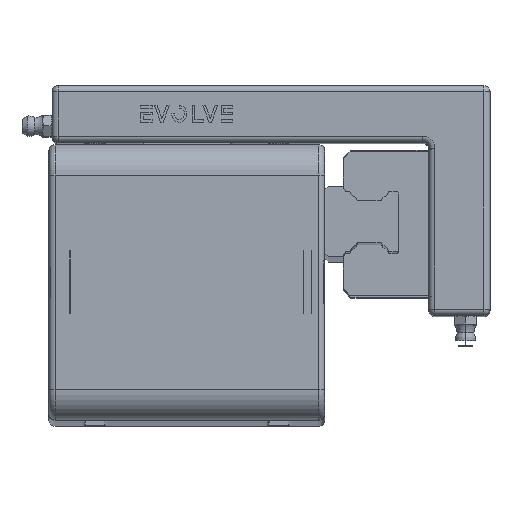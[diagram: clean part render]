
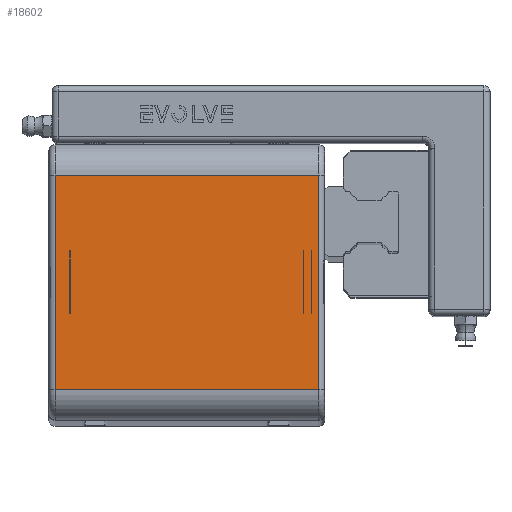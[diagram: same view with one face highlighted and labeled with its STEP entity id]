
A CAD part, top view. The second image highlights one B-rep face of the part: STEP entity #18602.
In plain terms, the highlighted planar face has unit normal (0, 0, 1).
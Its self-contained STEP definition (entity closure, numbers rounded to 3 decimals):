
#1195=PLANE('',#20324);
#2092=FACE_OUTER_BOUND('',#3239,.T.);
#3239=EDGE_LOOP('',(#14553,#14554,#14555,#14556));
#4504=LINE('',#29608,#6145);
#4514=LINE('',#29659,#6155);
#4559=LINE('',#29861,#6200);
#4560=LINE('',#29863,#6201);
#6145=VECTOR('',#23224,10.);
#6155=VECTOR('',#23278,10.);
#6200=VECTOR('',#23517,10.);
#6201=VECTOR('',#23520,10.);
#8765=VERTEX_POINT('',#29600);
#8767=VERTEX_POINT('',#29606);
#8784=VERTEX_POINT('',#29651);
#8786=VERTEX_POINT('',#29657);
#10800=EDGE_CURVE('',#8767,#8765,#4504,.T.);
#10825=EDGE_CURVE('',#8786,#8784,#4514,.T.);
#10922=EDGE_CURVE('',#8765,#8786,#4559,.T.);
#10923=EDGE_CURVE('',#8784,#8767,#4560,.T.);
#14553=ORIENTED_EDGE('',*,*,#10800,.F.);
#14554=ORIENTED_EDGE('',*,*,#10923,.F.);
#14555=ORIENTED_EDGE('',*,*,#10825,.F.);
#14556=ORIENTED_EDGE('',*,*,#10922,.F.);
#18602=ADVANCED_FACE('',(#2092),#1195,.T.);
#20324=AXIS2_PLACEMENT_3D('',#29862,#23518,#23519);
#23224=DIRECTION('',(0.,-1.,0.));
#23278=DIRECTION('',(0.,1.,0.));
#23517=DIRECTION('',(-1.,0.,0.));
#23518=DIRECTION('center_axis',(0.,0.,1.));
#23519=DIRECTION('ref_axis',(1.,0.,0.));
#23520=DIRECTION('',(1.,0.,0.));
#29600=CARTESIAN_POINT('',(43.,-35.,95.));
#29606=CARTESIAN_POINT('',(43.,35.,95.));
#29608=CARTESIAN_POINT('',(43.,-22.5,95.));
#29651=CARTESIAN_POINT('',(-43.,35.,95.));
#29657=CARTESIAN_POINT('',(-43.,-35.,95.));
#29659=CARTESIAN_POINT('',(-43.,22.5,95.));
#29861=CARTESIAN_POINT('',(-22.5,-35.,95.));
#29862=CARTESIAN_POINT('Origin',(0.,0.,
95.));
#29863=CARTESIAN_POINT('',(22.5,35.,95.));
